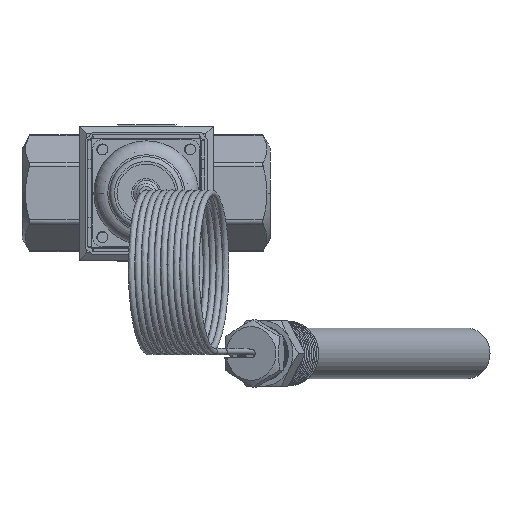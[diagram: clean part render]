
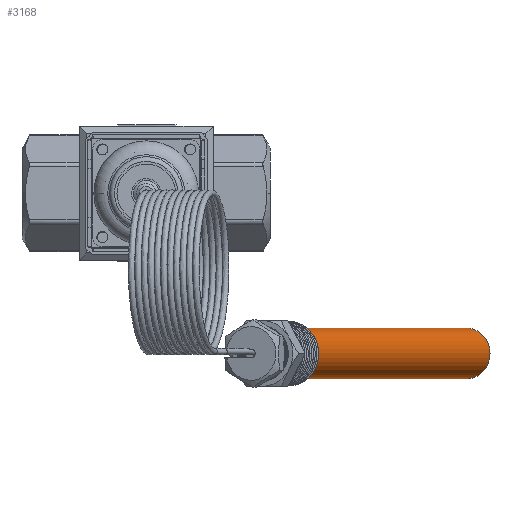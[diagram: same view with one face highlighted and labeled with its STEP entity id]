
A CAD part, front view. The second image highlights one B-rep face of the part: STEP entity #3168.
In plain terms, the highlighted cylindrical face has radius 10.4 mm (diameter 20.8 mm), a full revolution.
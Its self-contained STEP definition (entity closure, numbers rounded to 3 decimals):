
#2326=FACE_BOUND('',#5792,.T.);
#2327=FACE_BOUND('',#5793,.T.);
#3168=ADVANCED_FACE('',(#2326,#2327),#3803,.T.);
#3803=CYLINDRICAL_SURFACE('',#21158,10.4);
#5792=EDGE_LOOP('',(#10600));
#5793=EDGE_LOOP('',(#10601));
#6644=CIRCLE('',#21154,10.4);
#6645=CIRCLE('',#21156,10.4);
#10600=ORIENTED_EDGE('',*,*,#16067,.T.);
#10601=ORIENTED_EDGE('',*,*,#16068,.T.);
#13626=VERTEX_POINT('',#69233);
#13627=VERTEX_POINT('',#69236);
#16067=EDGE_CURVE('',#13626,#13626,#6644,.T.);
#16068=EDGE_CURVE('',#13627,#13627,#6645,.T.);
#21154=AXIS2_PLACEMENT_3D('',#69232,#24985,#24986);
#21156=AXIS2_PLACEMENT_3D('',#69235,#24989,#24990);
#21158=AXIS2_PLACEMENT_3D('',#69238,#24993,#24994);
#24985=DIRECTION('',(0.,0.,-1.));
#24986=DIRECTION('',(1.,0.,0.));
#24989=DIRECTION('',(0.,0.,1.));
#24990=DIRECTION('',(1.,0.,0.));
#24993=DIRECTION('',(0.,0.,1.));
#24994=DIRECTION('',(1.,0.,0.));
#69232=CARTESIAN_POINT('',(0.,0.,185.));
#69233=CARTESIAN_POINT('',(10.4,0.,185.));
#69235=CARTESIAN_POINT('',(0.,0.,0.));
#69236=CARTESIAN_POINT('',(10.4,0.,0.));
#69238=CARTESIAN_POINT('',(0.,0.,0.));
